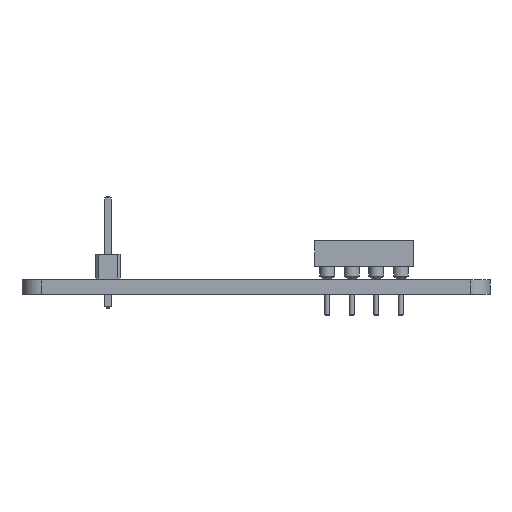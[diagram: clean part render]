
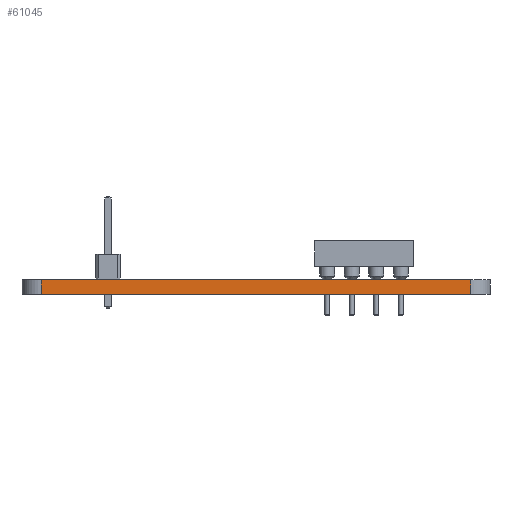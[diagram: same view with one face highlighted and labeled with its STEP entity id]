
A CAD part, front view. The second image highlights one B-rep face of the part: STEP entity #61045.
In plain terms, the highlighted planar face has unit normal (0, -1, 0).
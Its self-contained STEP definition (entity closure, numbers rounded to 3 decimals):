
#59088 = VERTEX_POINT('',#59089);
#59089 = CARTESIAN_POINT('',(97.25,-114.097,0.));
#59096 = EDGE_CURVE('',#59097,#59088,#59099,.T.);
#59097 = VERTEX_POINT('',#59098);
#59098 = CARTESIAN_POINT('',(141.662,-114.097,0.));
#59099 = LINE('',#59100,#59101);
#59100 = CARTESIAN_POINT('',(141.662,-114.097,0.));
#59101 = VECTOR('',#59102,1.);
#59102 = DIRECTION('',(-1.,0.,0.));
#60053 = VERTEX_POINT('',#60054);
#60054 = CARTESIAN_POINT('',(97.25,-114.097,1.51));
#60061 = EDGE_CURVE('',#60062,#60053,#60064,.T.);
#60062 = VERTEX_POINT('',#60063);
#60063 = CARTESIAN_POINT('',(141.662,-114.097,1.51));
#60064 = LINE('',#60065,#60066);
#60065 = CARTESIAN_POINT('',(141.662,-114.097,1.51));
#60066 = VECTOR('',#60067,1.);
#60067 = DIRECTION('',(-1.,0.,0.));
#61017 = EDGE_CURVE('',#59097,#60062,#61018,.T.);
#61018 = LINE('',#61019,#61020);
#61019 = CARTESIAN_POINT('',(141.662,-114.097,0.));
#61020 = VECTOR('',#61021,1.);
#61021 = DIRECTION('',(0.,0.,1.));
#61045 = ADVANCED_FACE('',(#61046),#61057,.T.);
#61046 = FACE_BOUND('',#61047,.T.);
#61047 = EDGE_LOOP('',(#61048,#61049,#61050,#61056));
#61048 = ORIENTED_EDGE('',*,*,#61017,.T.);
#61049 = ORIENTED_EDGE('',*,*,#60061,.T.);
#61050 = ORIENTED_EDGE('',*,*,#61051,.F.);
#61051 = EDGE_CURVE('',#59088,#60053,#61052,.T.);
#61052 = LINE('',#61053,#61054);
#61053 = CARTESIAN_POINT('',(97.25,-114.097,0.));
#61054 = VECTOR('',#61055,1.);
#61055 = DIRECTION('',(0.,0.,1.));
#61056 = ORIENTED_EDGE('',*,*,#59096,.F.);
#61057 = PLANE('',#61058);
#61058 = AXIS2_PLACEMENT_3D('',#61059,#61060,#61061);
#61059 = CARTESIAN_POINT('',(141.662,-114.097,0.));
#61060 = DIRECTION('',(0.,-1.,0.));
#61061 = DIRECTION('',(-1.,0.,0.));
